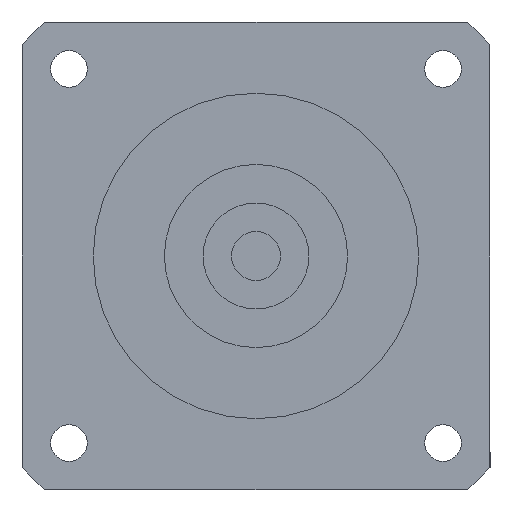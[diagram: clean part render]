
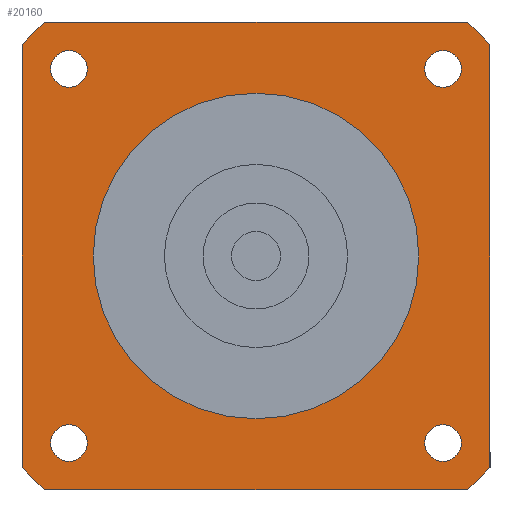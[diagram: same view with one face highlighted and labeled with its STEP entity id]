
A CAD part, left-side view. The second image highlights one B-rep face of the part: STEP entity #20160.
In plain terms, the highlighted planar face has unit normal (-1, 0, 0) as drawn and (0, 0, -1) by its records, which use the part's own axes.
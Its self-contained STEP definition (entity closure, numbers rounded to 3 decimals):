
#18320=CARTESIAN_POINT('',(-41.462,-45.962,-118.));
#18330=VERTEX_POINT('',#18320);
#18410=CARTESIAN_POINT('',(-50.462,-45.962,-118.));
#18420=VERTEX_POINT('',#18410);
#18450=CARTESIAN_POINT('',(-45.962,-45.962,-118.));
#18460=DIRECTION('',(0.,0.,-1.));
#18470=DIRECTION('',(0.,-1.,0.));
#18480=AXIS2_PLACEMENT_3D('',#18450,#18460,#18470);
#18490=CIRCLE('',#18480,4.5);
#18500=CARTESIAN_POINT('',(-45.962,-50.462,-118.));
#18510=VERTEX_POINT('',#18500);
#18520=EDGE_CURVE('',#18510,#18420,#18490,.T.);
#18540=EDGE_CURVE('',#18330,#18510,#18490,.T.);
#18590=CARTESIAN_POINT('',(-57.5,57.5,-118.));
#18600=DIRECTION('',(0.,0.,1.));
#18610=DIRECTION('',(-1.,0.,0.));
#18620=AXIS2_PLACEMENT_3D('',#18590,#18600,#18610);
#18630=PLANE('',#18620);
#18640=CARTESIAN_POINT('',(45.962,-45.962,-118.));
#18650=DIRECTION('',(0.,0.,-1.));
#18660=DIRECTION('',(1.,0.,0.));
#18670=AXIS2_PLACEMENT_3D('',#18640,#18650,#18660);
#18680=CIRCLE('',#18670,4.5);
#18690=CARTESIAN_POINT('',(50.462,-45.962,-118.));
#18700=VERTEX_POINT('',#18690);
#18710=CARTESIAN_POINT('',(45.962,-50.462,-118.));
#18720=VERTEX_POINT('',#18710);
#18730=EDGE_CURVE('',#18700,#18720,#18680,.T.);
#18740=ORIENTED_EDGE('',*,*,#18730,.F.);
#18750=CARTESIAN_POINT('',(45.962,-41.462,-118.));
#18760=VERTEX_POINT('',#18750);
#18770=EDGE_CURVE('',#18720,#18760,#18680,.T.);
#18780=ORIENTED_EDGE('',*,*,#18770,.F.);
#18790=EDGE_CURVE('',#18760,#18700,#18680,.T.);
#18800=ORIENTED_EDGE('',*,*,#18790,.F.);
#18810=EDGE_LOOP('',(#18800,#18780,#18740));
#18820=FACE_BOUND('',#18810,.T.);
#18830=CARTESIAN_POINT('',(45.962,45.962,-118.));
#18840=DIRECTION('',(0.,0.,-1.));
#18850=DIRECTION('',(0.,1.,0.));
#18860=AXIS2_PLACEMENT_3D('',#18830,#18840,#18850);
#18870=CIRCLE('',#18860,4.5);
#18880=CARTESIAN_POINT('',(45.962,50.462,-118.));
#18890=VERTEX_POINT('',#18880);
#18900=CARTESIAN_POINT('',(50.462,45.962,-118.));
#18910=VERTEX_POINT('',#18900);
#18920=EDGE_CURVE('',#18890,#18910,#18870,.T.);
#18930=ORIENTED_EDGE('',*,*,#18920,.F.);
#18940=CARTESIAN_POINT('',(41.462,45.962,-118.));
#18950=VERTEX_POINT('',#18940);
#18960=EDGE_CURVE('',#18910,#18950,#18870,.T.);
#18970=ORIENTED_EDGE('',*,*,#18960,.F.);
#18980=EDGE_CURVE('',#18950,#18890,#18870,.T.);
#18990=ORIENTED_EDGE('',*,*,#18980,.F.);
#19000=EDGE_LOOP('',(#18990,#18970,#18930));
#19010=FACE_BOUND('',#19000,.T.);
#19020=CARTESIAN_POINT('',(-45.962,45.962,-118.));
#19030=DIRECTION('',(0.,0.,-1.));
#19040=DIRECTION('',(-1.,0.,0.));
#19050=AXIS2_PLACEMENT_3D('',#19020,#19030,#19040);
#19060=CIRCLE('',#19050,4.5);
#19070=CARTESIAN_POINT('',(-50.462,45.962,-118.));
#19080=VERTEX_POINT('',#19070);
#19090=CARTESIAN_POINT('',(-45.962,50.462,-118.));
#19100=VERTEX_POINT('',#19090);
#19110=EDGE_CURVE('',#19080,#19100,#19060,.T.);
#19120=ORIENTED_EDGE('',*,*,#19110,.F.);
#19130=CARTESIAN_POINT('',(-45.962,41.462,-118.));
#19140=VERTEX_POINT('',#19130);
#19150=EDGE_CURVE('',#19100,#19140,#19060,.T.);
#19160=ORIENTED_EDGE('',*,*,#19150,.F.);
#19170=EDGE_CURVE('',#19140,#19080,#19060,.T.);
#19180=ORIENTED_EDGE('',*,*,#19170,.F.);
#19190=EDGE_LOOP('',(#19180,#19160,#19120));
#19200=FACE_BOUND('',#19190,.T.);
#19210=ORIENTED_EDGE('',*,*,#18520,.F.);
#19220=EDGE_CURVE('',#18420,#18330,#18490,.T.);
#19230=ORIENTED_EDGE('',*,*,#19220,.F.);
#19240=ORIENTED_EDGE('',*,*,#18540,.F.);
#19250=EDGE_LOOP('',(#19240,#19230,#19210));
#19260=FACE_BOUND('',#19250,.T.);
#19270=CARTESIAN_POINT('',(0.,0.,
-118.));
#19280=DIRECTION('',(0.,0.,1.));
#19290=DIRECTION('',(0.,-1.,0.));
#19300=AXIS2_PLACEMENT_3D('',#19270,#19280,#19290);
#19310=CIRCLE('',#19300,77.5);
#19320=CARTESIAN_POINT('',(-57.5,-51.962,-118.));
#19330=VERTEX_POINT('',#19320);
#19340=CARTESIAN_POINT('',(-51.962,-57.5,-118.));
#19350=VERTEX_POINT('',#19340);
#19360=EDGE_CURVE('',#19330,#19350,#19310,.T.);
#19370=ORIENTED_EDGE('',*,*,#19360,.F.);
#19380=CARTESIAN_POINT('',(-57.5,-57.5,-118.));
#19390=DIRECTION('',(1.,0.,0.));
#19400=VECTOR('',#19390,1000.);
#19410=LINE('',#19380,#19400);
#19420=CARTESIAN_POINT('',(51.962,-57.5,-118.));
#19430=VERTEX_POINT('',#19420);
#19440=EDGE_CURVE('',#19350,#19430,#19410,.T.);
#19450=ORIENTED_EDGE('',*,*,#19440,.F.);
#19460=CARTESIAN_POINT('',(0.,0.,
-118.));
#19470=DIRECTION('',(0.,0.,1.));
#19480=DIRECTION('',(0.,-1.,0.));
#19490=AXIS2_PLACEMENT_3D('',#19460,#19470,#19480);
#19500=CIRCLE('',#19490,77.5);
#19510=CARTESIAN_POINT('',(57.5,-51.962,-118.));
#19520=VERTEX_POINT('',#19510);
#19530=EDGE_CURVE('',#19430,#19520,#19500,.T.);
#19540=ORIENTED_EDGE('',*,*,#19530,.F.);
#19550=CARTESIAN_POINT('',(57.5,-57.5,-118.));
#19560=DIRECTION('',(0.,1.,0.));
#19570=VECTOR('',#19560,1000.);
#19580=LINE('',#19550,#19570);
#19590=CARTESIAN_POINT('',(57.5,51.962,-118.));
#19600=VERTEX_POINT('',#19590);
#19610=EDGE_CURVE('',#19520,#19600,#19580,.T.);
#19620=ORIENTED_EDGE('',*,*,#19610,.F.);
#19630=CARTESIAN_POINT('',(0.,0.,
-118.));
#19640=DIRECTION('',(0.,0.,1.));
#19650=DIRECTION('',(0.,-1.,0.));
#19660=AXIS2_PLACEMENT_3D('',#19630,#19640,#19650);
#19670=CIRCLE('',#19660,77.5);
#19680=CARTESIAN_POINT('',(51.962,57.5,-118.));
#19690=VERTEX_POINT('',#19680);
#19700=EDGE_CURVE('',#19600,#19690,#19670,.T.);
#19710=ORIENTED_EDGE('',*,*,#19700,.F.);
#19720=CARTESIAN_POINT('',(57.5,57.5,-118.));
#19730=DIRECTION('',(-1.,0.,0.));
#19740=VECTOR('',#19730,1000.);
#19750=LINE('',#19720,#19740);
#19760=CARTESIAN_POINT('',(-51.962,57.5,-118.));
#19770=VERTEX_POINT('',#19760);
#19780=EDGE_CURVE('',#19690,#19770,#19750,.T.);
#19790=ORIENTED_EDGE('',*,*,#19780,.F.);
#19800=CARTESIAN_POINT('',(0.,0.,
-118.));
#19810=DIRECTION('',(0.,0.,1.));
#19820=DIRECTION('',(0.,-1.,0.));
#19830=AXIS2_PLACEMENT_3D('',#19800,#19810,#19820);
#19840=CIRCLE('',#19830,77.5);
#19850=CARTESIAN_POINT('',(-57.5,51.962,-118.));
#19860=VERTEX_POINT('',#19850);
#19870=EDGE_CURVE('',#19770,#19860,#19840,.T.);
#19880=ORIENTED_EDGE('',*,*,#19870,.F.);
#19890=CARTESIAN_POINT('',(-57.5,57.5,-118.));
#19900=DIRECTION('',(0.,-1.,0.));
#19910=VECTOR('',#19900,1000.);
#19920=LINE('',#19890,#19910);
#19930=EDGE_CURVE('',#19860,#19330,#19920,.T.);
#19940=ORIENTED_EDGE('',*,*,#19930,.F.);
#19950=EDGE_LOOP('',(#19940,#19880,#19790,#19710,#19620,#19540,#19450,
#19370));
#19960=FACE_OUTER_BOUND('',#19950,.T.);
#19970=CARTESIAN_POINT('',(0.,0.,
-118.));
#19980=DIRECTION('',(0.,0.,1.));
#19990=DIRECTION('',(0.,-1.,0.));
#20000=AXIS2_PLACEMENT_3D('',#19970,#19980,#19990);
#20010=CIRCLE('',#20000,40.);
#20020=CARTESIAN_POINT('',(40.,0.,-118.));
#20030=VERTEX_POINT('',#20020);
#20040=CARTESIAN_POINT('',(-40.,0.,-118.));
#20050=VERTEX_POINT('',#20040);
#20060=EDGE_CURVE('',#20030,#20050,#20010,.T.);
#20070=ORIENTED_EDGE('',*,*,#20060,.T.);
#20080=CARTESIAN_POINT('',(0.,-40.,-118.));
#20090=VERTEX_POINT('',#20080);
#20100=EDGE_CURVE('',#20090,#20030,#20010,.T.);
#20110=ORIENTED_EDGE('',*,*,#20100,.T.);
#20120=EDGE_CURVE('',#20050,#20090,#20010,.T.);
#20130=ORIENTED_EDGE('',*,*,#20120,.T.);
#20140=EDGE_LOOP('',(#20130,#20110,#20070));
#20150=FACE_BOUND('',#20140,.T.);
#20160=ADVANCED_FACE('',(#18820,#19010,#19200,#19260,#19960,#20150),
#18630,.F.);
